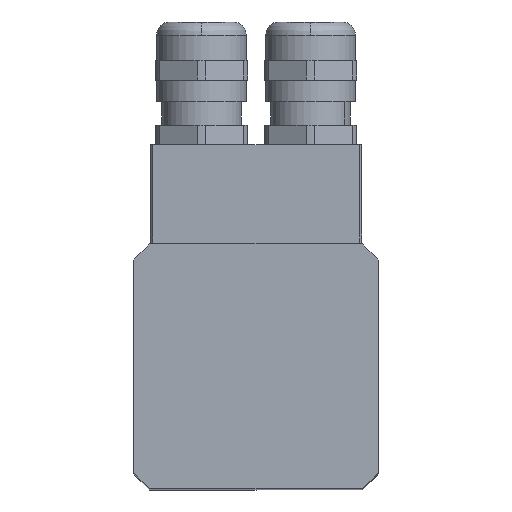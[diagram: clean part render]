
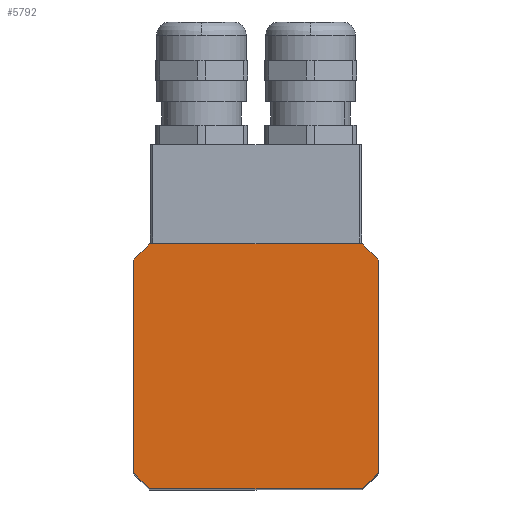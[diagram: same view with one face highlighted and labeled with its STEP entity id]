
A CAD part, top view. The second image highlights one B-rep face of the part: STEP entity #5792.
In plain terms, the highlighted planar face has unit normal (0, 0, 1).
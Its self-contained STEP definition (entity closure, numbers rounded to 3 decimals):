
#5717=CARTESIAN_POINT('',(-20.35,-20.35,111.0));
#5718=DIRECTION('',(0.0,0.0,1.0));
#5719=DIRECTION('',(1.0,0.0,0.0));
#5720=AXIS2_PLACEMENT_3D('',#5717,#5718,#5719);
#5721=PLANE('',#5720);
#5722=CARTESIAN_POINT('',(-16.062,18.5,111.0));
#5723=VERTEX_POINT('',#5722);
#5724=CARTESIAN_POINT('',(-18.5,16.062,111.0));
#5725=VERTEX_POINT('',#5724);
#5726=CARTESIAN_POINT('',(0.0,0.0,111.0));
#5727=DIRECTION('',(0.0,0.0,1.0));
#5728=DIRECTION('',(-1.0,0.0,0.0));
#5729=AXIS2_PLACEMENT_3D('',#5726,#5727,#5728);
#5730=CIRCLE('',#5729,24.5);
#5731=EDGE_CURVE('',#5723,#5725,#5730,.T.);
#5732=ORIENTED_EDGE('',*,*,#5731,.T.);
#5733=CARTESIAN_POINT('',(-18.5,-16.062,111.0));
#5734=VERTEX_POINT('',#5733);
#5735=CARTESIAN_POINT('',(-18.5,-16.062,111.0));
#5736=DIRECTION('',(0.0,1.0,0.0));
#5737=VECTOR('',#5736,32.125);
#5738=LINE('',#5735,#5737);
#5739=EDGE_CURVE('',#5734,#5725,#5738,.T.);
#5740=ORIENTED_EDGE('',*,*,#5739,.F.);
#5741=CARTESIAN_POINT('',(-16.062,-18.5,111.0));
#5742=VERTEX_POINT('',#5741);
#5743=CARTESIAN_POINT('',(0.0,0.0,111.0));
#5744=DIRECTION('',(0.0,0.0,1.0));
#5745=DIRECTION('',(-1.0,0.0,0.0));
#5746=AXIS2_PLACEMENT_3D('',#5743,#5744,#5745);
#5747=CIRCLE('',#5746,24.5);
#5748=EDGE_CURVE('',#5734,#5742,#5747,.T.);
#5749=ORIENTED_EDGE('',*,*,#5748,.T.);
#5750=CARTESIAN_POINT('',(16.062,-18.5,111.0));
#5751=VERTEX_POINT('',#5750);
#5752=CARTESIAN_POINT('',(16.062,-18.5,111.0));
#5753=DIRECTION('',(-1.0,0.0,0.0));
#5754=VECTOR('',#5753,32.125);
#5755=LINE('',#5752,#5754);
#5756=EDGE_CURVE('',#5751,#5742,#5755,.T.);
#5757=ORIENTED_EDGE('',*,*,#5756,.F.);
#5758=CARTESIAN_POINT('',(18.5,-16.062,111.0));
#5759=VERTEX_POINT('',#5758);
#5760=CARTESIAN_POINT('',(0.0,0.0,111.0));
#5761=DIRECTION('',(0.0,0.0,1.0));
#5762=DIRECTION('',(-1.0,0.0,0.0));
#5763=AXIS2_PLACEMENT_3D('',#5760,#5761,#5762);
#5764=CIRCLE('',#5763,24.5);
#5765=EDGE_CURVE('',#5751,#5759,#5764,.T.);
#5766=ORIENTED_EDGE('',*,*,#5765,.T.);
#5767=CARTESIAN_POINT('',(18.5,16.062,111.0));
#5768=VERTEX_POINT('',#5767);
#5769=CARTESIAN_POINT('',(18.5,16.062,111.0));
#5770=DIRECTION('',(0.0,-1.0,0.0));
#5771=VECTOR('',#5770,32.125);
#5772=LINE('',#5769,#5771);
#5773=EDGE_CURVE('',#5768,#5759,#5772,.T.);
#5774=ORIENTED_EDGE('',*,*,#5773,.F.);
#5775=CARTESIAN_POINT('',(16.062,18.5,111.0));
#5776=VERTEX_POINT('',#5775);
#5777=CARTESIAN_POINT('',(0.0,0.0,111.0));
#5778=DIRECTION('',(0.0,0.0,1.0));
#5779=DIRECTION('',(-1.0,0.0,0.0));
#5780=AXIS2_PLACEMENT_3D('',#5777,#5778,#5779);
#5781=CIRCLE('',#5780,24.5);
#5782=EDGE_CURVE('',#5768,#5776,#5781,.T.);
#5783=ORIENTED_EDGE('',*,*,#5782,.T.);
#5784=CARTESIAN_POINT('',(-16.062,18.5,111.0));
#5785=DIRECTION('',(1.0,0.0,0.0));
#5786=VECTOR('',#5785,32.125);
#5787=LINE('',#5784,#5786);
#5788=EDGE_CURVE('',#5723,#5776,#5787,.T.);
#5789=ORIENTED_EDGE('',*,*,#5788,.F.);
#5790=EDGE_LOOP('',(#5732,#5740,#5749,#5757,#5766,#5774,#5783,#5789));
#5791=FACE_OUTER_BOUND('',#5790,.T.);
#5792=ADVANCED_FACE('',(#5791),#5721,.T.);
